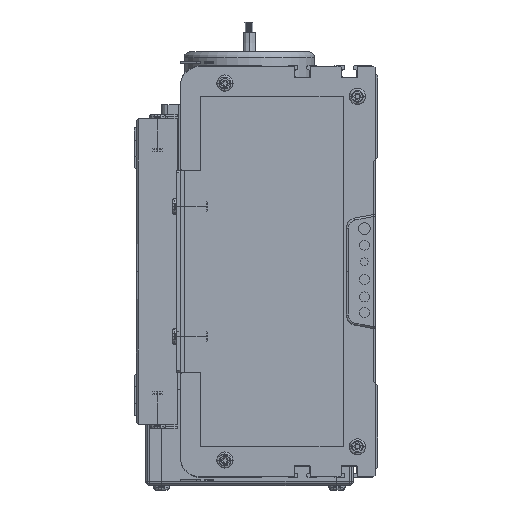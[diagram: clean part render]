
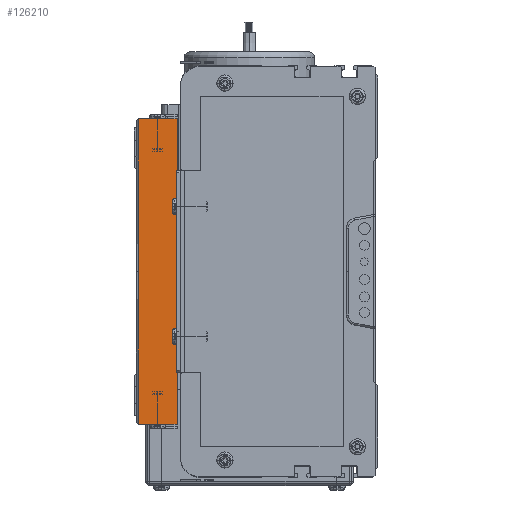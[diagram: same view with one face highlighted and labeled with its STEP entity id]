
A CAD part, left-side view. The second image highlights one B-rep face of the part: STEP entity #126210.
In plain terms, the highlighted planar face has unit normal (-1, 0, 0).
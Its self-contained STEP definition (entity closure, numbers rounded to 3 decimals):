
#68623 = CARTESIAN_POINT ( 'NONE',  ( 0., 20., 75. ) ) ;
#68624 = LINE ( 'NONE', #68623, #68722 ) ;
#68628 = DIRECTION ( 'NONE',  ( 0., 0., 1. ) ) ;
#68629 = VECTOR ( 'NONE', #68628, 1000. ) ;
#68631 = CARTESIAN_POINT ( 'NONE',  ( 0., 0., 0. ) ) ;
#68714 = CARTESIAN_POINT ( 'NONE',  ( 0., 0., -75. ) ) ;
#68720 = DIRECTION ( 'NONE',  ( 0., -1., 0. ) ) ;
#68722 = VECTOR ( 'NONE', #68720, 1000. ) ;
#68726 = LINE ( 'NONE', #68631, #68629 ) ;
#68933 = CARTESIAN_POINT ( 'NONE',  ( 0., 19., 75. ) ) ;
#69027 = CARTESIAN_POINT ( 'NONE',  ( 0., 0., 75. ) ) ;
#69483 = DIRECTION ( 'NONE',  ( 0., 0., -1. ) ) ;
#69523 = LINE ( 'NONE', #69564, #69529 ) ;
#69529 = VECTOR ( 'NONE', #69483, 1000. ) ;
#69564 = CARTESIAN_POINT ( 'NONE',  ( 0., 19., 0. ) ) ;
#69609 = DIRECTION ( 'NONE',  ( 0., -1., 0. ) ) ;
#69611 = VECTOR ( 'NONE', #69609, 1000. ) ;
#69613 = CARTESIAN_POINT ( 'NONE',  ( 0., 20., -75. ) ) ;
#69662 = LINE ( 'NONE', #69613, #69611 ) ;
#75033 = DIRECTION ( 'NONE',  ( 0., 0., -1. ) ) ;
#75035 = VECTOR ( 'NONE', #75033, 1000. ) ;
#75063 = CARTESIAN_POINT ( 'NONE',  ( 0., 19., -75. ) ) ;
#75316 = DIRECTION ( 'NONE',  ( 0., 0., -1. ) ) ;
#75336 = PLANE ( 'NONE',  #75743 ) ;
#75606 = CARTESIAN_POINT ( 'NONE',  ( 0., 19., 0. ) ) ;
#75707 = CARTESIAN_POINT ( 'NONE',  ( 0., 19., 0. ) ) ;
#75709 = LINE ( 'NONE', #75707, #75035 ) ;
#75738 = FACE_OUTER_BOUND ( 'NONE', #126179, .T. ) ;
#75743 = AXIS2_PLACEMENT_3D ( 'NONE', #75762, #75761, #75316 ) ;
#75761 = DIRECTION ( 'NONE',  ( 1., 0., 0. ) ) ;
#75762 = CARTESIAN_POINT ( 'NONE',  ( 0., 20., 0. ) ) ;
#125841 = VERTEX_POINT ( 'NONE', #68714 ) ;
#125842 = EDGE_CURVE ( 'NONE', #125841, #125887, #68726, .T. ) ;
#125845 = EDGE_CURVE ( 'NONE', #125954, #125887, #68624, .T. ) ;
#125887 = VERTEX_POINT ( 'NONE', #69027 ) ;
#125954 = VERTEX_POINT ( 'NONE', #68933 ) ;
#126045 = ORIENTED_EDGE ( 'NONE', *, *, #126087, .T. ) ;
#126087 = EDGE_CURVE ( 'NONE', #126235, #125841, #69662, .T. ) ;
#126088 = ORIENTED_EDGE ( 'NONE', *, *, #125845, .F. ) ;
#126110 = EDGE_CURVE ( 'NONE', #125954, #126232, #69523, .T. ) ;
#126179 = EDGE_LOOP ( 'NONE', ( #126088, #126697, #126226, #126045, #126699 ) ) ;
#126210 = ADVANCED_FACE ( 'NONE', ( #75738 ), #75336, .F. ) ;
#126226 = ORIENTED_EDGE ( 'NONE', *, *, #126233, .T. ) ;
#126232 = VERTEX_POINT ( 'NONE', #75606 ) ;
#126233 = EDGE_CURVE ( 'NONE', #126232, #126235, #75709, .T. ) ;
#126235 = VERTEX_POINT ( 'NONE', #75063 ) ;
#126697 = ORIENTED_EDGE ( 'NONE', *, *, #126110, .T. ) ;
#126699 = ORIENTED_EDGE ( 'NONE', *, *, #125842, .T. ) ;
